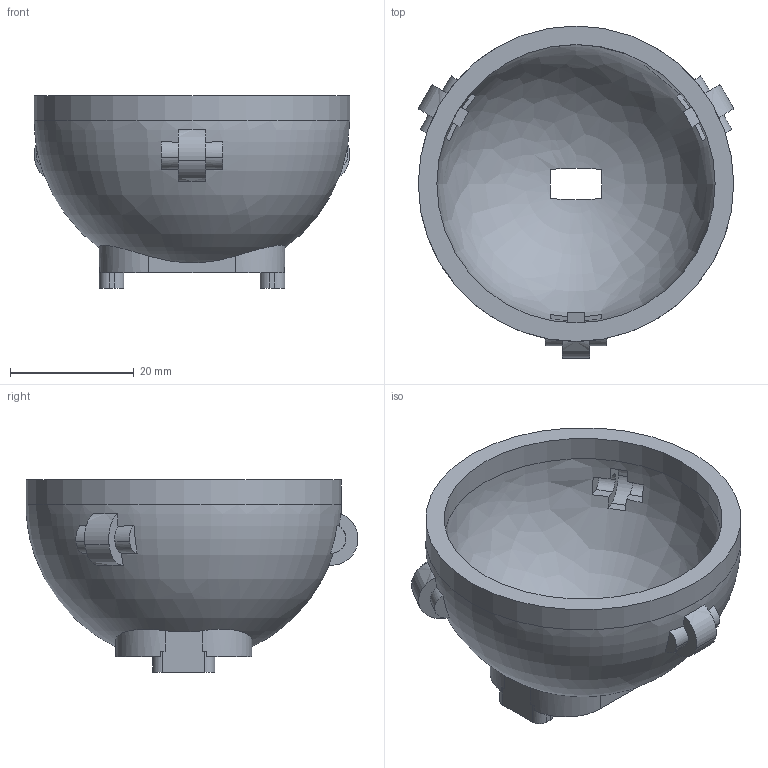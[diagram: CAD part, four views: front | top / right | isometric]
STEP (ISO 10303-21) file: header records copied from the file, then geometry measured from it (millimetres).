
FILE_DESCRIPTION(('Open CASCADE Model'),'2;1');
FILE_NAME('Open CASCADE Shape Model','2026-05-31T19:43:22',('Author'),( 'Open CASCADE'),'Open CASCADE STEP processor 7.6','Open CASCADE 7.6' ,'Unknown');
FILE_SCHEMA(('AP242_MANAGED_MODEL_BASED_3D_ENGINEERING_MIM_LF. {1 0 10303 442 1 1 4 }'));
Length unit declared in the file: millimetre
Products named in the file (1): Open CASCADE STEP translator 7.6 4
Bounding box: 51.03 x 53.66 x 31.1 mm (x, y, z)
Volume: 13048.8 mm3; surface area: 10002.8 mm2
Topology: 1 solids, 1 shells, 140 faces, 392 edges, 260 vertices
Faces by surface type: plane 74, extrusion 36, cylinder 22, bspline 4, revolution 2, cone 2
Full cylindrical faces by diameter (mm): 2.05 x2, 45 x1, 51 x1
Entity records: 19423 total; most frequent: CARTESIAN_POINT 12002, DIRECTION 1248, ORIENTED_EDGE 780, PCURVE 780, DEFINITIONAL_REPRESENTATION 780, VECTOR 658, LINE 622, EDGE_CURVE 390
